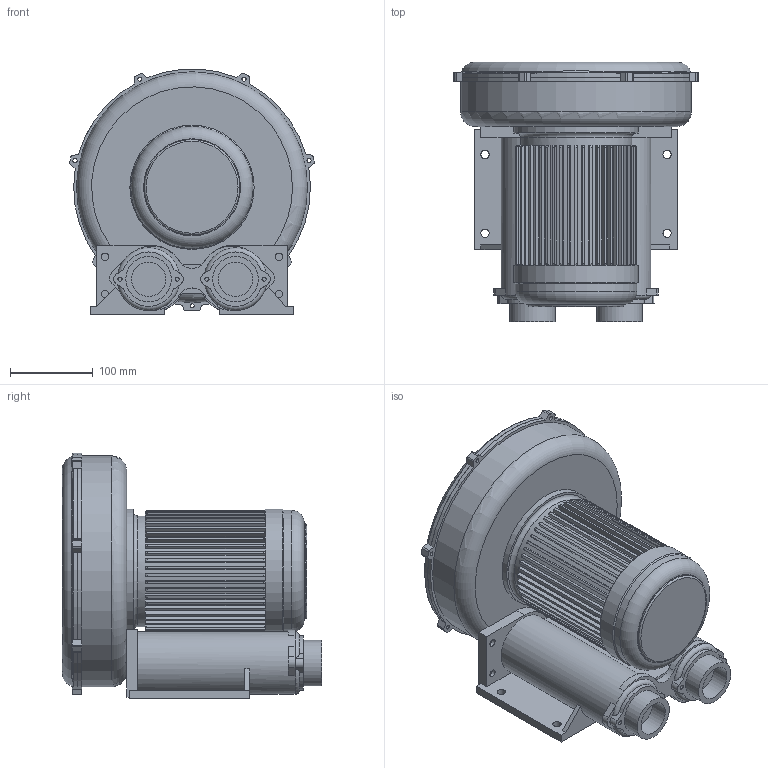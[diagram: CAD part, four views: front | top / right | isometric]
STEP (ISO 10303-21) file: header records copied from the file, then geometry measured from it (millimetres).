
FILE_DESCRIPTION(/* description */ ('Unknown'),/* implementation_level */ '2;1');
FILE_NAME(/* name */ '20201126 RB-1',/* time_stamp */ '2020-11-26T23:28:19+08:00',/* author */ ('å¤§èºè¨­è¨æéå¬å¸'),/* organization */ ('Unknown'),/* preprocessor_version */ 'ST-DEVELOPER v16.7',/* originating_system */ 'DEX',/* authorisation */ $);
FILE_SCHEMA (('AUTOMOTIVE_DESIGN {1 0 10303 214 3 1 1}'));
Length unit declared in the file: millimetre
Products named in the file (1): 20201126 RB-1
Bounding box: 295.81 x 313 x 296.59 mm (x, y, z)
Volume: 10435808.8 mm3; surface area: 552009.5 mm2
Topology: 1 solids, 1 shells, 546 faces, 1550 edges, 1027 vertices
Faces by surface type: plane 308, cylinder 202, cone 19, torus 17
Full cylindrical faces by diameter (mm): 5 x11, 9 x8, 10 x4, 41.448 x2, 54.999 x2, 115.154 x1, 134.154 x1, 147.154 x1, 150 x1, 150.154 x1, 278.951 x1
Entity records: 17905 total; most frequent: CARTESIAN_POINT 3744, ORIENTED_EDGE 2990, DIRECTION 2944, EDGE_CURVE 1495, AXIS2_PLACEMENT_3D 1112, VERTEX_POINT 1015, LINE 720, VECTOR 720
